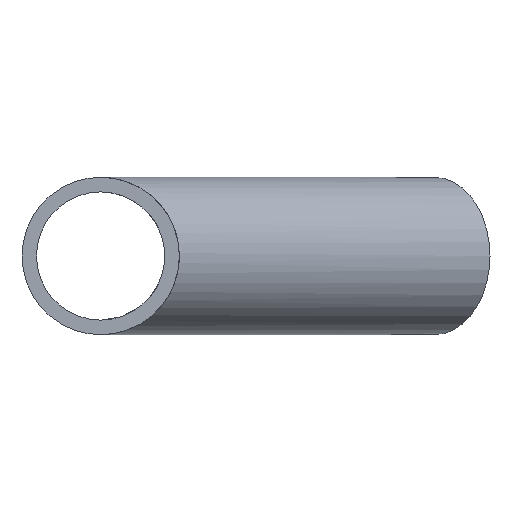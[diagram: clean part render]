
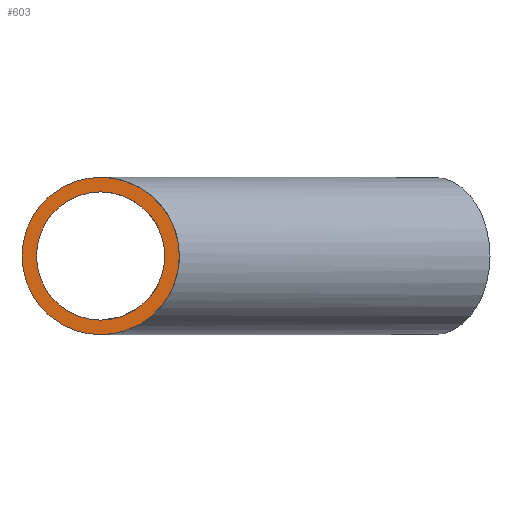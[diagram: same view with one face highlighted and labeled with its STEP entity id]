
A CAD part, front view. The second image highlights one B-rep face of the part: STEP entity #603.
In plain terms, the highlighted planar face has unit normal (0, -1, 0).
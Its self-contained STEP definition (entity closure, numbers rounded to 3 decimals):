
#257=CARTESIAN_POINT('',(-16.3,-77.,0.));
#258=VERTEX_POINT('',#257);
#265=CARTESIAN_POINT('',(0.,-77.,0.));
#266=DIRECTION('',(0.,1.,0.));
#267=DIRECTION('',(1.,0.,0.));
#268=AXIS2_PLACEMENT_3D('',#265,#266,#267);
#269=CIRCLE('',#268,16.3);
#270=EDGE_CURVE('',#258,#258,#269,.T.);
#541=CARTESIAN_POINT('',(-20.,-77.,0.));
#542=VERTEX_POINT('',#541);
#549=CARTESIAN_POINT('',(20.,-77.,0.));
#550=VERTEX_POINT('',#549);
#551=CARTESIAN_POINT('',(0.,-77.,0.));
#552=DIRECTION('',(0.,1.,0.));
#553=DIRECTION('',(1.,0.,0.));
#554=AXIS2_PLACEMENT_3D('',#551,#552,#553);
#555=CIRCLE('',#554,20.);
#556=EDGE_CURVE('',#542,#550,#555,.T.);
#558=EDGE_CURVE('',#550,#542,#555,.T.);
#591=ORIENTED_EDGE('',*,*,#558,.F.);
#592=ORIENTED_EDGE('',*,*,#556,.F.);
#593=EDGE_LOOP('',(#591,#592));
#594=FACE_OUTER_BOUND('',#593,.T.);
#595=ORIENTED_EDGE('',*,*,#270,.T.);
#596=EDGE_LOOP('',(#595));
#597=FACE_BOUND('',#596,.T.);
#598=CARTESIAN_POINT('',(0.,-77.,0.));
#599=DIRECTION('',(0.,1.,0.));
#600=DIRECTION('',(0.,0.,1.));
#601=AXIS2_PLACEMENT_3D('',#598,#599,#600);
#602=PLANE('',#601);
#603=ADVANCED_FACE('',(#594,#597),#602,.F.);
